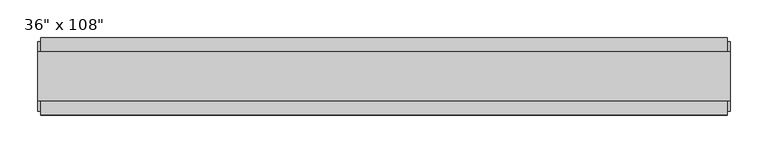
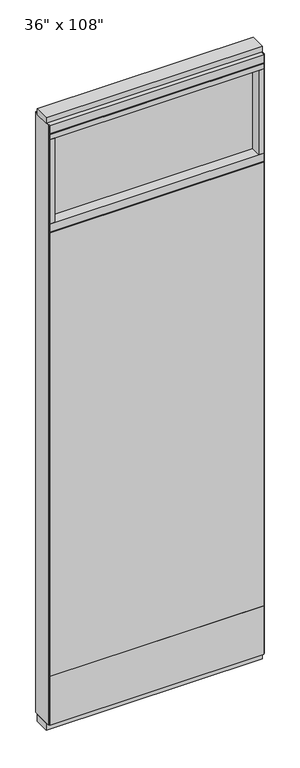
"""IFC4 building model written with IfcOpenShell, lengths in millimetres: furniture geometry."""

import ifcopenshell
import ifcopenshell.guid

model = None  # the IFC model being written
_history = None  # IfcOwnerHistory: only IFC2X3 demands one
_inside = {}  # id of a spatial element -> (the spatial element, [elements in it])
_under = {}  # id of a project, library or spatial element -> (it, [spatial elements below it])
_declared = {}  # id of a project -> (the project, [libraries it declares])
_typed = {}  # id of a type object -> (the type object, [elements of that type])
_made_of = {}  # id of a material, layer set ... -> (it, [elements and type objects made of it])


def new_model(schema):
    """Start an empty IFC model of exactly this schema.

    Asked for "IFC4X3", IfcOpenShell would pick the latest addendum, in which some entities
    have other attributes; the version numbers below select the first issue.
    IFC2X3 requires an IfcOwnerHistory on every rooted entity: one is made here for all.
    """
    global model, _history
    if schema == "IFC4X3":
        model = ifcopenshell.file(schema_version=(4, 3, 0, 0))
    else:
        model = ifcopenshell.file(schema=schema)
    _inside.clear()
    _under.clear()
    _declared.clear()
    _typed.clear()
    _made_of.clear()
    _history = None
    if model.schema == "IFC2X3":
        org = make("IfcOrganization", Name="unknown")
        user = make(
            "IfcPersonAndOrganization",
            ThePerson=make("IfcPerson", FamilyName="unknown"),
            TheOrganization=org,
        )
        app = make(
            "IfcApplication",
            ApplicationDeveloper=org,
            Version="unknown",
            ApplicationFullName="unknown",
            ApplicationIdentifier="unknown",
        )
        _history = make(
            "IfcOwnerHistory",
            OwningUser=user,
            OwningApplication=app,
            ChangeAction="ADDED",
            CreationDate=0,
        )
    return model


def make(cls, **values):
    """One entity of the class cls with the attributes given. An attribute that is None is left unset."""
    return model.create_entity(
        cls, **{name: value for name, value in values.items() if value is not None}
    )


def rooted(cls, **values):
    """An entity with a GlobalId (a new one), such as an element, a storey or a relation."""
    return make(cls, GlobalId=ifcopenshell.guid.new(), OwnerHistory=_history, **values)


def si_unit(unit_type, name, prefix=None):
    """IfcSIUnit, for example si_unit("LENGTHUNIT", "METRE", prefix="MILLI")."""
    return make("IfcSIUnit", UnitType=unit_type, Prefix=prefix, Name=name)


def assignment(units):
    """IfcUnitAssignment: the units of a project."""
    return None if units is None else make("IfcUnitAssignment", Units=units)


def point(xyz):
    """IfcCartesianPoint."""
    return None if xyz is None else make("IfcCartesianPoint", Coordinates=xyz)


def direction(xyz):
    """IfcDirection."""
    return None if xyz is None else make("IfcDirection", DirectionRatios=xyz)


def frame(location, z_axis=None, x_axis=None):
    """IfcAxis2Placement3D, a coordinate frame: its origin and axes. An axis left out is left unset."""
    return make(
        "IfcAxis2Placement3D",
        Location=point(location),
        Axis=direction(z_axis),
        RefDirection=direction(x_axis),
    )


def origin():
    """The frame at (0, 0, 0) with its axes left unset."""
    return frame((0.0, 0.0, 0.0))


def origin_with_axes():
    """The frame at (0, 0, 0) with the z axis (0, 0, 1) and the x axis (1, 0, 0) written out."""
    return frame((0.0, 0.0, 0.0), z_axis=(0.0, 0.0, 1.0), x_axis=(1.0, 0.0, 0.0))


def place(relative_to, where):
    """IfcLocalPlacement: puts the frame where relative to a parent placement (None: the world)."""
    return make(
        "IfcLocalPlacement", PlacementRelTo=relative_to, RelativePlacement=where
    )


def context(
    kind, dimensions, precision=None, world=None, true_north=None, identifier=None
):
    """IfcGeometricRepresentationContext, for example the 3D "Model" context."""
    return make(
        "IfcGeometricRepresentationContext",
        ContextIdentifier=identifier,
        ContextType=kind,
        CoordinateSpaceDimension=dimensions,
        Precision=precision,
        WorldCoordinateSystem=world,
        TrueNorth=true_north,
    )


def project(units=None, contexts=None):
    """IfcProject with its units and contexts."""
    return rooted(
        "IfcProject",
        Name="project",
        RepresentationContexts=contexts,
        UnitsInContext=assignment(units),
    )


def spatial(cls, under=None, at=None, **own):
    """A site, building, storey or space (cls), placed at a placement, below another one or the project."""
    s = rooted(cls, ObjectPlacement=at, **own)
    if under is not None:
        _under.setdefault(under.id(), (under, []))[1].append(s)
    return s


def polyline(points):
    """IfcPolyline through the points."""
    return make("IfcPolyline", Points=[point(p) for p in points])


def outline(outer, holes=None, kind="AREA"):
    """IfcArbitraryClosedProfileDef: a profile drawn as a closed curve; with holes, ...WithVoids."""
    if holes is None:
        return make("IfcArbitraryClosedProfileDef", ProfileType=kind, OuterCurve=outer)
    return make(
        "IfcArbitraryProfileDefWithVoids",
        ProfileType=kind,
        OuterCurve=outer,
        InnerCurves=holes,
    )


def extrude(swept, where, along, depth):
    """IfcExtrudedAreaSolid: the profile swept, set in the frame where, extruded along a direction by depth."""
    return make(
        "IfcExtrudedAreaSolid",
        SweptArea=swept,
        Position=where,
        ExtrudedDirection=direction(along),
        Depth=depth,
    )


def shape(context_of_items, identifier, shape_type, items):
    """IfcShapeRepresentation: the items that make up one representation, for example the "Body"."""
    return make(
        "IfcShapeRepresentation",
        ContextOfItems=context_of_items,
        RepresentationIdentifier=identifier,
        RepresentationType=shape_type,
        Items=items,
    )


def source(mapping_origin, context_of_items, identifier, shape_type, items):
    """IfcRepresentationMap: a shape defined once, which mapped items show again and again."""
    return make(
        "IfcRepresentationMap",
        MappingOrigin=mapping_origin,
        MappedRepresentation=shape(context_of_items, identifier, shape_type, items),
    )


def transform(
    local_origin,
    x_axis=None,
    y_axis=None,
    z_axis=None,
    scale=None,
    scale2=None,
    scale3=None,
    uniform=True,
):
    """IfcCartesianTransformationOperator3D, or its non-uniform kind. x_axis, y_axis, z_axis: its Axis1, 2, 3."""
    if uniform:
        return make(
            "IfcCartesianTransformationOperator3D",
            Axis1=direction(x_axis),
            Axis2=direction(y_axis),
            LocalOrigin=point(local_origin),
            Scale=scale,
            Axis3=direction(z_axis),
        )
    return make(
        "IfcCartesianTransformationOperator3DnonUniform",
        Axis1=direction(x_axis),
        Axis2=direction(y_axis),
        LocalOrigin=point(local_origin),
        Scale=scale,
        Axis3=direction(z_axis),
        Scale2=scale2,
        Scale3=scale3,
    )


def mapped(mapping_source, mapping_target):
    """IfcMappedItem: shows the shape of a source again, moved by a transform."""
    return make(
        "IfcMappedItem", MappingSource=mapping_source, MappingTarget=mapping_target
    )


def made_of(thing, what):
    """Note that an element or type object is made of a material, layer set ...; save() writes the relation."""
    if what is not None:
        _made_of.setdefault(what.id(), (what, []))[1].append(thing)
    return thing


def element(
    cls,
    number,
    at=None,
    inside=None,
    cuts=None,
    type_object=None,
    material=None,
    context=None,
    identifier="Body",
    shape_type=None,
    held_by="IfcProductDefinitionShape",
    body=None,
    shapes=None,
    **own,
):
    """One element of the class cls, such as IfcWall. Its Tag is "e" and its number.

    at: its placement. inside: the storey or other place that contains it. cuts: it is an
    opening in that element (IfcRelVoidsElement). A single representation is given by context,
    identifier, shape_type and body (its items); several are given by shapes. held_by: the class
    of the entity that holds the representations. save() writes the other relations.
    """
    e = rooted(cls, Tag="e%d" % number, ObjectPlacement=at, **own)
    if body is not None:
        shapes = [shape(context, identifier, shape_type, body)]
    if shapes is not None:
        e.Representation = make(held_by, Representations=shapes)
    if inside is not None:
        _inside.setdefault(inside.id(), (inside, []))[1].append(e)
    if cuts is not None:
        rooted(
            "IfcRelVoidsElement", RelatingBuildingElement=cuts, RelatedOpeningElement=e
        )
    if type_object is not None:
        _typed.setdefault(type_object.id(), (type_object, []))[1].append(e)
    return made_of(e, material)


def aggregate(whole, parts):
    """IfcRelAggregates: a whole, such as a stair, and the parts it consists of."""
    return rooted("IfcRelAggregates", RelatingObject=whole, RelatedObjects=parts)


def save(model, path):
    """Write the relations noted so far, then the file.

    IfcRelAggregates (storeys below a building ...), IfcRelContainedInSpatialStructure (elements
    in a storey), IfcRelDefinesByType, IfcRelAssociatesMaterial and IfcRelDeclares: one each for
    every whole, place, type object, material and project.
    """
    for whole, parts in _under.values():
        aggregate(whole, parts)
    for where, things in _inside.values():
        rooted(
            "IfcRelContainedInSpatialStructure",
            RelatedElements=things,
            RelatingStructure=where,
        )
    for kind, things in _typed.values():
        rooted("IfcRelDefinesByType", RelatedObjects=things, RelatingType=kind)
    for what, things in _made_of.values():
        rooted("IfcRelAssociatesMaterial", RelatedObjects=things, RelatingMaterial=what)
    for by, libraries in _declared.values():
        rooted("IfcRelDeclares", RelatingContext=by, RelatedDefinitions=libraries)
    model.write(path)


def furniture_63bf6b26(model_context):
    return source(origin(), model_context, "Body", "SweptSolid", [
        extrude(outline(polyline([(393.2264771, 46.2822784), (393.2264771, 33.5822784), (-513.2995229, 33.5822784), (-513.2995229, 46.2822784), (393.2264771, 46.2822784)])), frame((0.0, 0.0, 249.936), z_axis=(0.0, 0.0, 1.0), x_axis=(1.0, 0.0, 0.0)), (0.0, 0.0, 1.0), 1985.264),
        extrude(outline(polyline([(393.2264771, -55.3177216), (-513.2995229, -55.3177216), (-513.2995229, -42.6177216), (393.2264771, -42.6177216), (393.2264771, -55.3177216)])), frame((0.0, 0.0, 249.936), z_axis=(0.0, 0.0, 1.0), x_axis=(1.0, 0.0, 0.0)), (0.0, 0.0, 1.0), 1985.264),
        extrude(outline(polyline([(393.2264771, 46.2822784), (393.2264771, 33.5822784), (-513.2995229, 33.5822784), (-513.2995229, 46.2822784), (393.2264771, 46.2822784)])), frame((0.0, 0.0, 31.75), z_axis=(0.0, 0.0, 1.0), x_axis=(1.0, 0.0, 0.0)), (0.0, 0.0, 1.0), 218.186),
        extrude(outline(polyline([(393.2264771, -55.3177216), (-513.2995229, -55.3177216), (-513.2995229, -42.6177216), (393.2264771, -42.6177216), (393.2264771, -55.3177216)])), frame((0.0, 0.0, 31.75), z_axis=(0.0, 0.0, 1.0), x_axis=(1.0, 0.0, 0.0)), (0.0, 0.0, 1.0), 218.186),
        extrude(outline(polyline([(371.0014771, -9.5977216), (-491.0745229, -9.5977216), (-491.0745229, 0.5622784), (371.0014771, 0.5622784), (371.0014771, -9.5977216)])), frame((0.0, 0.0, 2276.475), z_axis=(0.0, 0.0, 1.0), x_axis=(1.0, 0.0, 0.0)), (0.0, 0.0, 1.0), 377.825),
        extrude(outline(polyline([(371.0014771, -55.3177216), (371.0014771, 46.2822784), (393.2264771, 46.2822784), (393.2264771, -55.3177216), (371.0014771, -55.3177216)])), frame((0.0, 0.0, 2276.475), z_axis=(0.0, 0.0, 1.0), x_axis=(1.0, 0.0, 0.0)), (0.0, 0.0, 1.0), 377.825),
        extrude(outline(polyline([(-55.3177216, 2240.153), (-55.3177216, 2276.475), (46.2822784, 2276.475), (46.2822784, 2240.153), (41.3292784, 2240.153), (41.3292784, 2235.2), (-50.3647216, 2235.2), (-50.3647216, 2240.153), (-55.3177216, 2240.153)])), frame((-513.2995229, 0.0, 0.0), z_axis=(1.0, 0.0, 0.0), x_axis=(0.0, 1.0, 0.0)), (0.0, 0.0, 1.0), 906.526),
        extrude(outline(polyline([(-491.0745229, -55.3177216), (-513.2995229, -55.3177216), (-513.2995229, 46.2822784), (-491.0745229, 46.2822784), (-491.0745229, -55.3177216)])), frame((0.0, 0.0, 2276.475), z_axis=(0.0, 0.0, 1.0), x_axis=(1.0, 0.0, 0.0)), (0.0, 0.0, 1.0), 377.825),
        extrude(outline(polyline([(397.1634771, 27.9942784), (397.1634771, -37.0297216), (-517.2365229, -37.0297216), (-517.2365229, 27.9942784), (397.1634771, 27.9942784)])), origin_with_axes(), (0.0, 0.0, 1.0), 31.75),
        extrude(outline(polyline([(-517.2365229, -37.0297216), (-517.2365229, 27.9942784), (397.1634771, 27.9942784), (397.1634771, -37.0297216), (-517.2365229, -37.0297216)])), frame((0.0, 0.0, 2717.8), z_axis=(0.0, 0.0, 1.0), x_axis=(1.0, 0.0, 0.0)), (0.0, 0.0, 1.0), 25.4),
        extrude(outline(polyline([(-55.3177216, 2681.478), (-55.3177216, 2717.8), (46.2822784, 2717.8), (46.2822784, 2681.478), (41.3292784, 2681.478), (41.3292784, 2676.525), (-50.3647216, 2676.525), (-50.3647216, 2681.478), (-55.3177216, 2681.478)])), frame((-513.2995229, 0.0, 0.0), z_axis=(1.0, 0.0, 0.0), x_axis=(0.0, 1.0, 0.0)), (0.0, 0.0, 1.0), 906.526),
        extrude(outline(polyline([(393.2264771, 46.2822784), (393.2264771, -55.3177216), (-513.2995229, -55.3177216), (-513.2995229, 46.2822784), (393.2264771, 46.2822784)])), frame((0.0, 0.0, 2654.3), z_axis=(0.0, 0.0, 1.0), x_axis=(1.0, 0.0, 0.0)), (0.0, 0.0, 1.0), 22.225),
        extrude(outline(polyline([(397.1634771, -50.3647216), (393.2264771, -50.3647216), (393.2264771, 41.3292784), (397.1634771, 41.3292784), (397.1634771, -50.3647216)])), frame((0.0, 0.0, 31.75), z_axis=(0.0, 0.0, 1.0), x_axis=(1.0, 0.0, 0.0)), (0.0, 0.0, 1.0), 2686.05),
        extrude(outline(polyline([(-517.2365229, -50.3647216), (-517.2365229, 41.3292784), (-513.2995229, 41.3292784), (-513.2995229, -50.3647216), (-517.2365229, -50.3647216)])), frame((0.0, 0.0, 31.75), z_axis=(0.0, 0.0, 1.0), x_axis=(1.0, 0.0, 0.0)), (0.0, 0.0, 1.0), 2686.05),
    ])


if __name__ == "__main__":
    model = new_model("IFC4")
    model_context = context("Model", 3, world=origin())
    ifc_project = project(units=[si_unit("LENGTHUNIT", "METRE", prefix="MILLI")], contexts=[model_context])
    site = spatial("IfcSite", under=ifc_project)
    building = spatial("IfcBuilding", under=site)
    placement = place(None, origin())
    furniture_shape = furniture_63bf6b26(model_context)
    element("IfcFurniture", 1, ObjectType="Haworth_Enclose_Wall_SolidTransom : 36\" x 108\"", at=placement, inside=building, context=model_context, shape_type="MappedRepresentation", body=[
        mapped(furniture_shape, transform((0.0, 0.0, 0.0), x_axis=(1.0, 0.0, 0.0), y_axis=(0.0, 1.0, 0.0), z_axis=(0.0, 0.0, 1.0))),
    ])
    save(model, "model.ifc")
